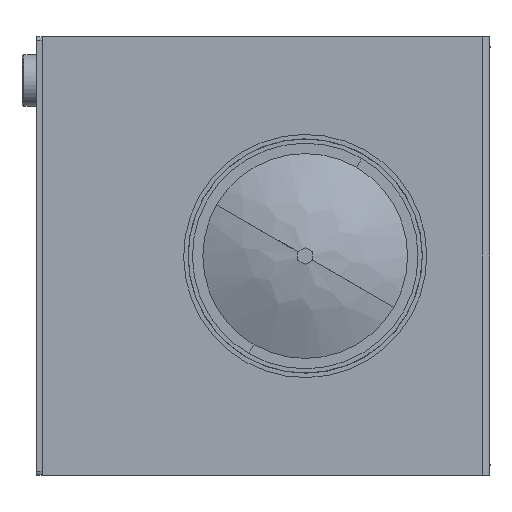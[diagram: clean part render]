
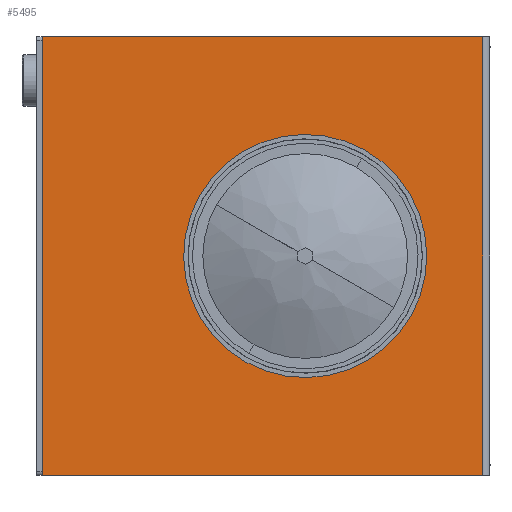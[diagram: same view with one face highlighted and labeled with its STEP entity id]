
A CAD part, left-side view. The second image highlights one B-rep face of the part: STEP entity #5495.
In plain terms, the highlighted planar face has unit normal (-1, 0, 0) as drawn and (1, 0, 0) by its records, which use the part's own axes.
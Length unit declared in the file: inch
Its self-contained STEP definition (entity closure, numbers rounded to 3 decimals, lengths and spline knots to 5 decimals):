
#425 = VECTOR ( 'NONE', #4834, 39.37008 ) ;
#956 = CARTESIAN_POINT ( 'NONE',  ( 0., 15.3125, 15. ) ) ;
#1083 = PLANE ( 'NONE',  #6226 ) ;
#1155 = EDGE_CURVE ( 'NONE', #9069, #1388, #4477, .T. ) ;
#1388 = VERTEX_POINT ( 'NONE', #1790 ) ;
#1439 = VERTEX_POINT ( 'NONE', #3083 ) ;
#1590 = DIRECTION ( 'NONE',  ( 0., 0., 1. ) ) ;
#1790 = CARTESIAN_POINT ( 'NONE',  ( 0., -14.8125, -15. ) ) ;
#2176 = ORIENTED_EDGE ( 'NONE', *, *, #1155, .T. ) ;
#2192 = DIRECTION ( 'NONE',  ( 1., 0., 0. ) ) ;
#2435 = FACE_BOUND ( 'NONE', #6936, .T. ) ;
#2678 = CARTESIAN_POINT ( 'NONE',  ( 0., -2.678, 7. ) ) ;
#3083 = CARTESIAN_POINT ( 'NONE',  ( 0., 15.3125, -15. ) ) ;
#3088 = EDGE_CURVE ( 'NONE', #8687, #9069, #7897, .T. ) ;
#3099 = CARTESIAN_POINT ( 'NONE',  ( 0., -15.3125, 15. ) ) ;
#3229 = DIRECTION ( 'NONE',  ( 0., 0., 1. ) ) ;
#3333 = CARTESIAN_POINT ( 'NONE',  ( 0., -2.678, 0. ) ) ;
#3560 = AXIS2_PLACEMENT_3D ( 'NONE', #6337, #2192, #7056 ) ;
#4035 = DIRECTION ( 'NONE',  ( 0., 0., -1. ) ) ;
#4477 = LINE ( 'NONE', #8942, #8002 ) ;
#4514 = DIRECTION ( 'NONE',  ( 0., -1., 0. ) ) ;
#4829 = CIRCLE ( 'NONE', #7240, 7. ) ;
#4834 = DIRECTION ( 'NONE',  ( 0., 1., 0. ) ) ;
#4862 = CARTESIAN_POINT ( 'NONE',  ( 0., -14.8125, 15. ) ) ;
#5007 = VECTOR ( 'NONE', #1590, 39.37008 ) ;
#5202 = ORIENTED_EDGE ( 'NONE', *, *, #5851, .F. ) ;
#5360 = CIRCLE ( 'NONE', #3560, 7. ) ;
#5495 = ADVANCED_FACE ( 'NONE', ( #2435, #6108 ), #1083, .F. ) ;
#5749 = ORIENTED_EDGE ( 'NONE', *, *, #7532, .F. ) ;
#5761 = ORIENTED_EDGE ( 'NONE', *, *, #6910, .T. ) ;
#5851 = EDGE_CURVE ( 'NONE', #6215, #7839, #5360, .T. ) ;
#5981 = VECTOR ( 'NONE', #4514, 39.37008 ) ;
#6108 = FACE_OUTER_BOUND ( 'NONE', #7121, .T. ) ;
#6215 = VERTEX_POINT ( 'NONE', #6407 ) ;
#6226 = AXIS2_PLACEMENT_3D ( 'NONE', #6670, #7394, #3229 ) ;
#6254 = EDGE_CURVE ( 'NONE', #1439, #8687, #6876, .T. ) ;
#6337 = CARTESIAN_POINT ( 'NONE',  ( 0., -2.678, 0. ) ) ;
#6407 = CARTESIAN_POINT ( 'NONE',  ( 0., -2.678, -7. ) ) ;
#6670 = CARTESIAN_POINT ( 'NONE',  ( 0., 0., 0. ) ) ;
#6806 = DIRECTION ( 'NONE',  ( 0., 0., -1. ) ) ;
#6876 = LINE ( 'NONE', #7203, #5007 ) ;
#6910 = EDGE_CURVE ( 'NONE', #1388, #1439, #7881, .T. ) ;
#6936 = EDGE_LOOP ( 'NONE', ( #5202, #5749 ) ) ;
#7056 = DIRECTION ( 'NONE',  ( 0., 0., -1. ) ) ;
#7121 = EDGE_LOOP ( 'NONE', ( #2176, #5761, #8953, #9053 ) ) ;
#7203 = CARTESIAN_POINT ( 'NONE',  ( 0., 15.3125, 15. ) ) ;
#7240 = AXIS2_PLACEMENT_3D ( 'NONE', #3333, #8244, #4035 ) ;
#7394 = DIRECTION ( 'NONE',  ( -1., 0., 0. ) ) ;
#7532 = EDGE_CURVE ( 'NONE', #7839, #6215, #4829, .T. ) ;
#7839 = VERTEX_POINT ( 'NONE', #2678 ) ;
#7881 = LINE ( 'NONE', #8348, #425 ) ;
#7897 = LINE ( 'NONE', #3099, #5981 ) ;
#8002 = VECTOR ( 'NONE', #6806, 39.37008 ) ;
#8244 = DIRECTION ( 'NONE',  ( 1., 0., 0. ) ) ;
#8348 = CARTESIAN_POINT ( 'NONE',  ( 0., -15.3125, -15. ) ) ;
#8687 = VERTEX_POINT ( 'NONE', #956 ) ;
#8942 = CARTESIAN_POINT ( 'NONE',  ( 0., -14.8125, 15. ) ) ;
#8953 = ORIENTED_EDGE ( 'NONE', *, *, #6254, .T. ) ;
#9053 = ORIENTED_EDGE ( 'NONE', *, *, #3088, .T. ) ;
#9069 = VERTEX_POINT ( 'NONE', #4862 ) ;
